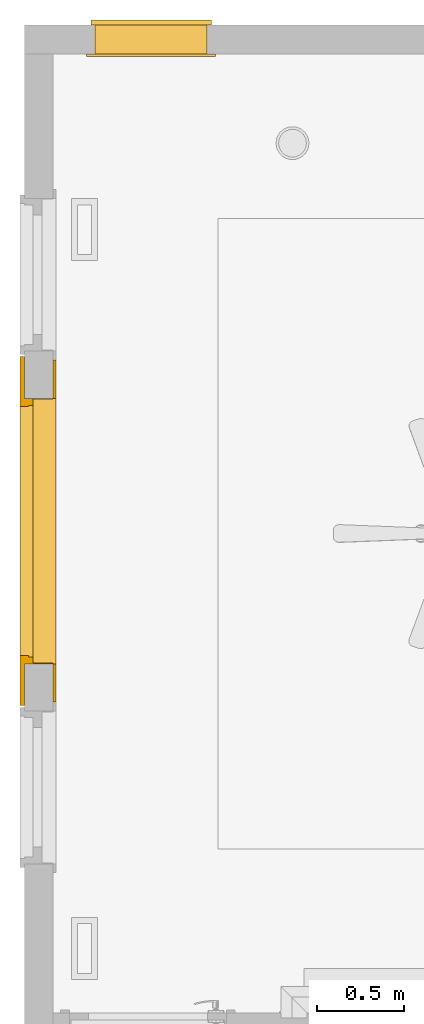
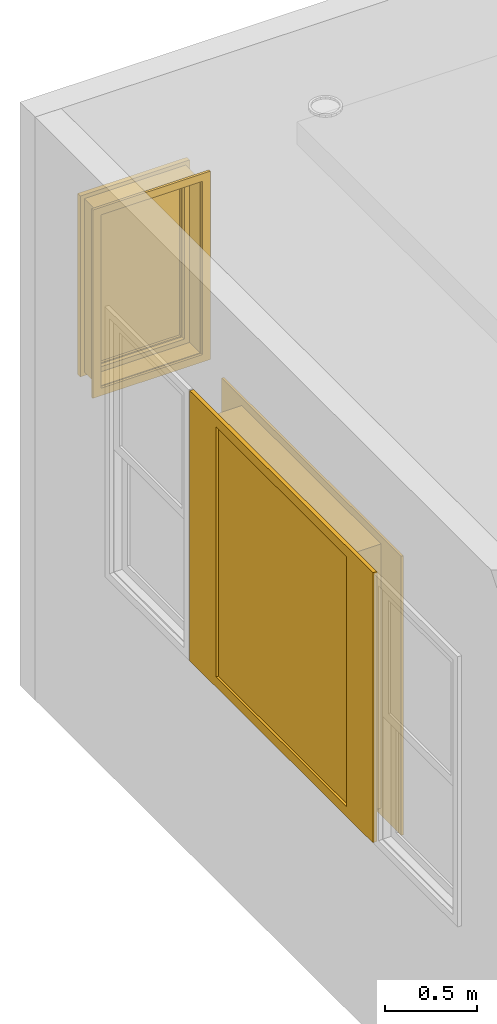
# One storey, part 36 of 77: 2 windows.
"""IFC2X3 building model written with IfcOpenShell, lengths in inches."""

import ifcopenshell
import ifcopenshell.guid

model = None  # the IFC model being written
_history = None  # IfcOwnerHistory: only IFC2X3 demands one
_inside = {}  # id of a spatial element -> (the spatial element, [elements in it])
_under = {}  # id of a project, library or spatial element -> (it, [spatial elements below it])
_declared = {}  # id of a project -> (the project, [libraries it declares])
_typed = {}  # id of a type object -> (the type object, [elements of that type])
_made_of = {}  # id of a material, layer set ... -> (it, [elements and type objects made of it])


def new_model(schema):
    """Start an empty IFC model of exactly this schema.

    Asked for "IFC4X3", IfcOpenShell would pick the latest addendum, in which some entities
    have other attributes; the version numbers below select the first issue.
    IFC2X3 requires an IfcOwnerHistory on every rooted entity: one is made here for all.
    """
    global model, _history
    if schema == "IFC4X3":
        model = ifcopenshell.file(schema_version=(4, 3, 0, 0))
    else:
        model = ifcopenshell.file(schema=schema)
    _inside.clear()
    _under.clear()
    _declared.clear()
    _typed.clear()
    _made_of.clear()
    _history = None
    if model.schema == "IFC2X3":
        org = make("IfcOrganization", Name="unknown")
        user = make(
            "IfcPersonAndOrganization",
            ThePerson=make("IfcPerson", FamilyName="unknown"),
            TheOrganization=org,
        )
        app = make(
            "IfcApplication",
            ApplicationDeveloper=org,
            Version="unknown",
            ApplicationFullName="unknown",
            ApplicationIdentifier="unknown",
        )
        _history = make(
            "IfcOwnerHistory",
            OwningUser=user,
            OwningApplication=app,
            ChangeAction="ADDED",
            CreationDate=0,
        )
    return model


def make(cls, **values):
    """One entity of the class cls with the attributes given. An attribute that is None is left unset."""
    return model.create_entity(
        cls, **{name: value for name, value in values.items() if value is not None}
    )


def entity(cls, *values):
    """Any entity or typed value of the class cls, its attributes in the order of the schema. None: left unset."""
    e = model.create_entity(cls)
    for i, value in enumerate(values):
        if value is not None:
            e[i] = value
    return e


def rooted(cls, **values):
    """An entity with a GlobalId (a new one), such as an element, a storey or a relation."""
    return make(cls, GlobalId=ifcopenshell.guid.new(), OwnerHistory=_history, **values)


def si_unit(unit_type, name, prefix=None):
    """IfcSIUnit, for example si_unit("LENGTHUNIT", "METRE", prefix="MILLI")."""
    return make("IfcSIUnit", UnitType=unit_type, Prefix=prefix, Name=name)


def converted_unit(unit_type, name, factor, base, dimensions=None, offset=None):
    """IfcConversionBasedUnit, such as the inch: factor (a typed value) times the base unit."""
    return make(
        "IfcConversionBasedUnit"
        if offset is None
        else "IfcConversionBasedUnitWithOffset",
        ConversionOffset=offset,
        Dimensions=None
        if dimensions is None
        else entity("IfcDimensionalExponents", *dimensions),
        UnitType=unit_type,
        Name=name,
        ConversionFactor=make(
            "IfcMeasureWithUnit", ValueComponent=factor, UnitComponent=base
        ),
    )


def derived_unit(unit_type, elements):
    """IfcDerivedUnit: a product of units, each with its exponent."""
    return make(
        "IfcDerivedUnit",
        Elements=[
            make("IfcDerivedUnitElement", Unit=unit, Exponent=power)
            for unit, power in elements
        ],
        UnitType=unit_type,
    )


def money_unit(currency):
    """IfcMonetaryUnit."""
    return make("IfcMonetaryUnit", Currency=currency)


def assignment(units):
    """IfcUnitAssignment: the units of a project."""
    return None if units is None else make("IfcUnitAssignment", Units=units)


def point(xyz):
    """IfcCartesianPoint."""
    return None if xyz is None else make("IfcCartesianPoint", Coordinates=xyz)


def direction(xyz):
    """IfcDirection."""
    return None if xyz is None else make("IfcDirection", DirectionRatios=xyz)


def frame(location, z_axis=None, x_axis=None):
    """IfcAxis2Placement3D, a coordinate frame: its origin and axes. An axis left out is left unset."""
    return make(
        "IfcAxis2Placement3D",
        Location=point(location),
        Axis=direction(z_axis),
        RefDirection=direction(x_axis),
    )


def origin_with_axes():
    """The frame at (0, 0, 0) with the z axis (0, 0, 1) and the x axis (1, 0, 0) written out."""
    return frame((0.0, 0.0, 0.0), z_axis=(0.0, 0.0, 1.0), x_axis=(1.0, 0.0, 0.0))


def place(relative_to, where):
    """IfcLocalPlacement: puts the frame where relative to a parent placement (None: the world)."""
    return make(
        "IfcLocalPlacement", PlacementRelTo=relative_to, RelativePlacement=where
    )


def context(
    kind, dimensions, precision=None, world=None, true_north=None, identifier=None
):
    """IfcGeometricRepresentationContext, for example the 3D "Model" context."""
    return make(
        "IfcGeometricRepresentationContext",
        ContextIdentifier=identifier,
        ContextType=kind,
        CoordinateSpaceDimension=dimensions,
        Precision=precision,
        WorldCoordinateSystem=world,
        TrueNorth=true_north,
    )


def subcontext(parent, identifier, kind, view, scale=None):
    """IfcGeometricRepresentationSubContext, for example "Body" below "Model"."""
    return make(
        "IfcGeometricRepresentationSubContext",
        ContextIdentifier=identifier,
        ContextType=kind,
        ParentContext=parent,
        TargetScale=scale,
        TargetView=view,
    )


def project(units=None, contexts=None):
    """IfcProject with its units and contexts."""
    return rooted(
        "IfcProject",
        Name="project",
        RepresentationContexts=contexts,
        UnitsInContext=assignment(units),
    )


def spatial(cls, under=None, at=None, **own):
    """A site, building, storey or space (cls), placed at a placement, below another one or the project."""
    s = rooted(cls, ObjectPlacement=at, **own)
    if under is not None:
        _under.setdefault(under.id(), (under, []))[1].append(s)
    return s


def faces_of(points, faces, orient=None, outer=None):
    """IfcFace entities. A face is a list of loops; a loop is a list of indices into points, from 0.

    orient and outer hold one flag for each loop. By default every Orientation is true, the
    first loop of a face is its IfcFaceOuterBound and the others are IfcFaceBound.
    """
    made = []
    for i, loops in enumerate(faces):
        bounds = []
        for j, loop in enumerate(loops):
            is_outer = j == 0 if outer is None else outer[i][j]
            bounds.append(
                make(
                    "IfcFaceOuterBound" if is_outer else "IfcFaceBound",
                    Bound=make("IfcPolyLoop", Polygon=[points[k] for k in loop]),
                    Orientation=True if orient is None else orient[i][j],
                )
            )
        made.append(make("IfcFace", Bounds=bounds))
    return made


def open_shell(faces, orient=None, outer=None):
    """The faces of one IfcOpenShell. surface_model builds it on its shared points."""
    return ("IfcOpenShell", faces, orient, outer)


def faceted_brep(points, faces, orient=None, outer=None, voids=None):
    """IfcFacetedBrep: a solid bounded by flat faces; with voids (closed shells), ...WithVoids."""
    shared = [point(p) for p in points]
    hull = make("IfcClosedShell", CfsFaces=faces_of(shared, faces, orient, outer))
    if voids is None:
        return make("IfcFacetedBrep", Outer=hull)
    return make(
        "IfcFacetedBrepWithVoids",
        Outer=hull,
        Voids=[
            make(cls, CfsFaces=faces_of(shared, fs, o, b)) for cls, fs, o, b in voids
        ],
    )


def surface_model(cls, points, shells):
    """IfcFaceBasedSurfaceModel or IfcShellBasedSurfaceModel (cls): surfaces that need not close."""
    shared = [point(p) for p in points]
    made = [make(c, CfsFaces=faces_of(shared, fs, o, b)) for c, fs, o, b in shells]
    if cls == "IfcFaceBasedSurfaceModel":
        return make(cls, FbsmFaces=made)
    return make(cls, SbsmBoundary=made)


def shape(context_of_items, identifier, shape_type, items):
    """IfcShapeRepresentation: the items that make up one representation, for example the "Body"."""
    return make(
        "IfcShapeRepresentation",
        ContextOfItems=context_of_items,
        RepresentationIdentifier=identifier,
        RepresentationType=shape_type,
        Items=items,
    )


def made_of(thing, what):
    """Note that an element or type object is made of a material, layer set ...; save() writes the relation."""
    if what is not None:
        _made_of.setdefault(what.id(), (what, []))[1].append(thing)
    return thing


def type_object(cls, material=None, **own):
    """A type object (cls), such as IfcWallType, which elements share."""
    return made_of(rooted(cls, **own), material)


def element(
    cls,
    number,
    at=None,
    inside=None,
    cuts=None,
    type_object=None,
    material=None,
    context=None,
    identifier="Body",
    shape_type=None,
    held_by="IfcProductDefinitionShape",
    body=None,
    shapes=None,
    **own,
):
    """One element of the class cls, such as IfcWall. Its Tag is "e" and its number.

    at: its placement. inside: the storey or other place that contains it. cuts: it is an
    opening in that element (IfcRelVoidsElement). A single representation is given by context,
    identifier, shape_type and body (its items); several are given by shapes. held_by: the class
    of the entity that holds the representations. save() writes the other relations.
    """
    e = rooted(cls, Tag="e%d" % number, ObjectPlacement=at, **own)
    if body is not None:
        shapes = [shape(context, identifier, shape_type, body)]
    if shapes is not None:
        e.Representation = make(held_by, Representations=shapes)
    if inside is not None:
        _inside.setdefault(inside.id(), (inside, []))[1].append(e)
    if cuts is not None:
        rooted(
            "IfcRelVoidsElement", RelatingBuildingElement=cuts, RelatedOpeningElement=e
        )
    if type_object is not None:
        _typed.setdefault(type_object.id(), (type_object, []))[1].append(e)
    return made_of(e, material)


def aggregate(whole, parts):
    """IfcRelAggregates: a whole, such as a stair, and the parts it consists of."""
    return rooted("IfcRelAggregates", RelatingObject=whole, RelatedObjects=parts)


def save(model, path):
    """Write the relations noted so far, then the file.

    IfcRelAggregates (storeys below a building ...), IfcRelContainedInSpatialStructure (elements
    in a storey), IfcRelDefinesByType, IfcRelAssociatesMaterial and IfcRelDeclares: one each for
    every whole, place, type object, material and project.
    """
    for whole, parts in _under.values():
        aggregate(whole, parts)
    for where, things in _inside.values():
        rooted(
            "IfcRelContainedInSpatialStructure",
            RelatedElements=things,
            RelatingStructure=where,
        )
    for kind, things in _typed.values():
        rooted("IfcRelDefinesByType", RelatedObjects=things, RelatingType=kind)
    for what, things in _made_of.values():
        rooted("IfcRelAssociatesMaterial", RelatedObjects=things, RelatingMaterial=what)
    for by, libraries in _declared.values():
        rooted("IfcRelDeclares", RelatingContext=by, RelatedDefinitions=libraries)
    model.write(path)


model = new_model("IFC2X3")

# Units and contexts
model_context = context("Model", 3, precision=0.000393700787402, world=origin_with_axes(), true_north=direction((0.0, 1.0)))
body_context = subcontext(model_context, "Body", "Model", "MODEL_VIEW")
ifc_project = project(units=[converted_unit("LENGTHUNIT", "INCH", entity("IfcPositiveLengthMeasure", 0.0254), si_unit("LENGTHUNIT", "METRE"), dimensions=[1, 0, 0, 0, 0, 0, 0]), converted_unit("AREAUNIT", "SQUARE_FOOT", entity("IfcPositiveLengthMeasure", 0.09290304), si_unit("AREAUNIT", "SQUARE_METRE"), dimensions=[2, 0, 0, 0, 0, 0, 0]), si_unit("PLANEANGLEUNIT", "RADIAN"), si_unit("SOLIDANGLEUNIT", "STERADIAN"), money_unit("USD"), converted_unit("TIMEUNIT", "Year", entity("IfcTimeMeasure", 31556926.0), si_unit("TIMEUNIT", "SECOND"), dimensions=[0, 0, 1, 0, 0, 0, 0]), si_unit("MASSUNIT", "GRAM", prefix="KILO"), si_unit("THERMODYNAMICTEMPERATUREUNIT", "DEGREE_CELSIUS"), si_unit("LUMINOUSINTENSITYUNIT", "LUMEN"), si_unit("ENERGYUNIT", "JOULE", prefix="MEGA"), derived_unit("THERMALCONDUCTANCEUNIT", [(si_unit("POWERUNIT", "WATT"), 1), (si_unit("LENGTHUNIT", "METRE"), -1), (si_unit("THERMODYNAMICTEMPERATUREUNIT", "KELVIN"), -1)]), derived_unit("SPECIFICHEATCAPACITYUNIT", [(si_unit("ENERGYUNIT", "JOULE"), 1), (si_unit("MASSUNIT", "GRAM", prefix="KILO"), -1), (si_unit("THERMODYNAMICTEMPERATUREUNIT", "KELVIN"), -1)]), derived_unit("MASSDENSITYUNIT", [(si_unit("MASSUNIT", "GRAM", prefix="KILO"), 1), (si_unit("VOLUMEUNIT", "CUBIC_METRE"), -1)])], contexts=[model_context])

# Site, building, storey
site_placement = place(None, origin_with_axes())
site = spatial("IfcSite", under=ifc_project, at=site_placement, Name="Site", CompositionType="ELEMENT")
building_placement = place(site_placement, origin_with_axes())
building = spatial("IfcBuilding", under=site, at=building_placement, Name="Building", CompositionType="ELEMENT")
storey_placement = place(building_placement, frame((0.0, 0.0, 127.952755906), z_axis=(0.0, 0.0, 1.0), x_axis=(1.0, 0.0, 0.0)))
storey = spatial("IfcBuildingStorey", under=building, at=storey_placement, Name="Second Floor", CompositionType="ELEMENT", Elevation=127.953)

# Windows
window_style_1 = type_object("IfcWindowStyle", Name="Window 25", ConstructionType="NOTDEFINED", OperationType="SINGLE_PANEL", ParameterTakesPrecedence=False, Sizeable=False)
window_1_placement = place(storey_placement, frame((236.09924534, 607.989865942, 49.6062992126), z_axis=(0.0, 0.0, 1.0), x_axis=(1.0, 0.0, 0.0)))
element("IfcWindow", 1, at=window_1_placement, inside=storey, type_object=window_style_1, Name="W-26", OverallHeight=45.4724, OverallWidth=25.1969, context=body_context, shape_type="SurfaceModel", body=[
    faceted_brep([(25.1968503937, 4.53149606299, 0.0), (25.1968503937, 0.0, 0.0), (0.0, 0.0, 0.0), (0.0, 4.53149606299, 0.0), (25.1968503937, 4.53149606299, 45.4724409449), (25.1968503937, 0.0, 45.4724409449), (0.0, 0.0, 45.4724409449), (25.0, 0.0, 0.196850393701), (0.196850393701, 0.0, 0.196850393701), (0.196850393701, 0.0, 45.2755905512), (25.0, 0.0, 45.2755905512), (0.0, 4.53149606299, 45.4724409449), (25.0, 4.53149606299, 0.196850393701), (25.0, 4.53149606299, 45.2755905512), (0.196850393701, 4.53149606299, 45.2755905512), (0.196850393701, 4.53149606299, 0.196850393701)], [[[0, 1, 2, 3]], [[4, 5, 1, 0]], [[1, 5, 6, 2], [7, 8, 9, 10]], [[3, 2, 6, 11]], [[0, 3, 11, 4], [12, 13, 14, 15]], [[11, 6, 5, 4]], [[15, 8, 7, 12]], [[14, 9, 8, 15]], [[13, 10, 9, 14]], [[12, 7, 10, 13]]]),
    faceted_brep([(27.1653543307, -0.590551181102, -1.96850393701), (25.1968503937, -0.590551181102, 0.0), (25.1968503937, 0.0, 0.0), (27.1653543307, 0.0, -1.96850393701), (27.1653543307, -0.590551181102, 47.4409448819), (25.1968503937, -0.590551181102, 45.4724409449), (25.1968503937, 0.0, 45.4724409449), (27.1653543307, 0.0, 47.4409448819)], [[[0, 1, 2, 3]], [[0, 4, 5, 1]], [[1, 5, 6, 2]], [[3, 2, 6, 7]], [[4, 0, 3, 7]], [[5, 4, 7, 6]]]),
    faceted_brep([(-1.96850393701, -0.590551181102, 47.4409448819), (0.0, -0.590551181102, 45.4724409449), (0.0, 0.0, 45.4724409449), (-1.96850393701, 0.0, 47.4409448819), (-1.96850393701, -0.590551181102, -1.96850393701), (0.0, -0.590551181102, 0.0), (0.0, 0.0, 0.0), (-1.96850393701, 0.0, -1.96850393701)], [[[0, 1, 2, 3]], [[0, 4, 5, 1]], [[1, 5, 6, 2]], [[3, 2, 6, 7]], [[4, 0, 3, 7]], [[5, 4, 7, 6]]]),
    faceted_brep([(-1.96850393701, -0.590551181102, -1.96850393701), (0.0, -0.590551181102, 0.0), (0.0, 0.0, 0.0), (-1.96850393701, 0.0, -1.96850393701), (27.1653543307, -0.590551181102, -1.96850393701), (25.1968503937, -0.590551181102, 0.0), (25.1968503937, 0.0, 0.0), (27.1653543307, 0.0, -1.96850393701)], [[[0, 1, 2, 3]], [[0, 4, 5, 1]], [[1, 5, 6, 2]], [[3, 2, 6, 7]], [[4, 0, 3, 7]], [[5, 4, 7, 6]]]),
    faceted_brep([(27.1653543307, -0.590551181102, 47.4409448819), (25.1968503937, -0.590551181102, 45.4724409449), (25.1968503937, 0.0, 45.4724409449), (27.1653543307, 0.0, 47.4409448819), (-1.96850393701, -0.590551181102, 47.4409448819), (0.0, -0.590551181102, 45.4724409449), (0.0, 0.0, 45.4724409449), (-1.96850393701, 0.0, 47.4409448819)], [[[0, 1, 2, 3]], [[0, 4, 5, 1]], [[1, 5, 6, 2]], [[3, 2, 6, 7]], [[4, 0, 3, 7]], [[5, 4, 7, 6]]]),
    faceted_brep([(26.1811023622, 7.6811023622, -0.984251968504), (26.1811023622, 6.5, -0.984251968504), (24.2125984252, 6.5, 0.984251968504), (24.2125984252, 7.6811023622, 0.984251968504), (26.1811023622, 7.6811023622, 46.4566929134), (26.1811023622, 6.5, 46.4566929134), (24.2125984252, 6.5, 44.4881889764), (24.2125984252, 7.6811023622, 44.4881889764)], [[[0, 1, 2, 3]], [[4, 5, 1, 0]], [[1, 5, 6, 2]], [[3, 2, 6, 7]], [[0, 3, 7, 4]], [[7, 6, 5, 4]]]),
    faceted_brep([(-0.984251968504, 7.6811023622, 46.4566929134), (-0.984251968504, 6.5, 46.4566929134), (0.984251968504, 6.5, 44.4881889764), (0.984251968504, 7.6811023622, 44.4881889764), (-0.984251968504, 7.6811023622, -0.984251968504), (-0.984251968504, 6.5, -0.984251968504), (0.984251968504, 6.5, 0.984251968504), (0.984251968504, 7.6811023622, 0.984251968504)], [[[0, 1, 2, 3]], [[4, 5, 1, 0]], [[1, 5, 6, 2]], [[3, 2, 6, 7]], [[0, 3, 7, 4]], [[7, 6, 5, 4]]]),
    faceted_brep([(-0.984251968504, 7.6811023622, -0.984251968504), (-0.984251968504, 6.5, -0.984251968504), (0.984251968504, 6.5, 0.984251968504), (0.984251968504, 7.6811023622, 0.984251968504), (26.1811023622, 7.6811023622, -0.984251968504), (26.1811023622, 6.5, -0.984251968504), (24.2125984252, 6.5, 0.984251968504), (24.2125984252, 7.6811023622, 0.984251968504)], [[[0, 1, 2, 3]], [[4, 5, 1, 0]], [[1, 5, 6, 2]], [[3, 2, 6, 7]], [[0, 3, 7, 4]], [[7, 6, 5, 4]]]),
    faceted_brep([(26.1811023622, 7.6811023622, 46.4566929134), (26.1811023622, 6.5, 46.4566929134), (24.2125984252, 6.5, 44.4881889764), (24.2125984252, 7.6811023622, 44.4881889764), (-0.984251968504, 7.6811023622, 46.4566929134), (-0.984251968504, 6.5, 46.4566929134), (0.984251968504, 6.5, 44.4881889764), (0.984251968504, 7.6811023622, 44.4881889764)], [[[0, 1, 2, 3]], [[4, 5, 1, 0]], [[1, 5, 6, 2]], [[3, 2, 6, 7]], [[0, 3, 7, 4]], [[7, 6, 5, 4]]]),
    faceted_brep([(24.6850393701, 6.5, 43.9763779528), (24.6850393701, 5.5157480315, 43.9763779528), (23.7007874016, 5.5157480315, 43.9763779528), (23.7007874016, 4.53149606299, 43.9763779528), (25.1968503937, 4.53149606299, 43.9763779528), (25.1968503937, 6.5, 43.9763779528), (24.6850393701, 6.5, 1.49606299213), (24.6850393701, 5.5157480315, 1.49606299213), (23.7007874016, 5.5157480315, 1.49606299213), (23.7007874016, 4.53149606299, 1.49606299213), (25.1968503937, 4.53149606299, 1.49606299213), (25.1968503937, 6.5, 1.49606299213)], [[[0, 1, 2, 3, 4, 5]], [[1, 0, 6, 7]], [[8, 2, 1, 7]], [[2, 8, 9, 3]], [[4, 3, 9, 10]], [[5, 4, 10, 11]], [[6, 0, 5, 11]], [[7, 6, 11, 10, 9, 8]]]),
    faceted_brep([(1.49606299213, 5.5157480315, 43.9763779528), (0.511811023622, 5.5157480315, 43.9763779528), (0.511811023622, 6.5, 43.9763779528), (0.0, 6.5, 43.9763779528), (0.0, 4.53149606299, 43.9763779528), (1.49606299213, 4.53149606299, 43.9763779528), (1.49606299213, 5.5157480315, 1.49606299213), (0.511811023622, 5.5157480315, 1.49606299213), (0.511811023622, 6.5, 1.49606299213), (0.0, 6.5, 1.49606299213), (0.0, 4.53149606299, 1.49606299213), (1.49606299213, 4.53149606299, 1.49606299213)], [[[0, 1, 2, 3, 4, 5]], [[1, 0, 6, 7]], [[8, 2, 1, 7]], [[2, 8, 9, 3]], [[9, 10, 4, 3]], [[10, 11, 5, 4]], [[6, 0, 5, 11]], [[7, 6, 11, 10, 9, 8]]]),
    faceted_brep([(1.49606299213, 5.5157480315, 1.49606299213), (0.511811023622, 5.5157480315, 1.49606299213), (0.511811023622, 6.5, 1.49606299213), (0.0, 6.5, 1.49606299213), (0.0, 4.53149606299, 1.49606299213), (1.49606299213, 4.53149606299, 1.49606299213), (23.7007874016, 5.5157480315, 1.49606299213), (24.6850393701, 5.5157480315, 1.49606299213), (24.6850393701, 5.5157480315, 0.511811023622), (0.511811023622, 5.5157480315, 0.511811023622), (0.511811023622, 6.5, 0.511811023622), (24.6850393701, 6.5, 0.511811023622), (24.6850393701, 6.5, 1.49606299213), (25.1968503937, 6.5, 1.49606299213), (25.1968503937, 6.5, 0.0), (0.0, 6.5, 0.0), (0.0, 4.53149606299, 0.0), (25.1968503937, 4.53149606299, 1.49606299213), (23.7007874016, 4.53149606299, 1.49606299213), (25.1968503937, 4.53149606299, 0.0)], [[[0, 1, 2, 3, 4, 5]], [[1, 0, 6, 7, 8, 9]], [[10, 2, 1, 9]], [[11, 12, 13, 14, 15, 3, 2, 10]], [[15, 16, 4, 3]], [[17, 18, 5, 4, 16, 19]], [[6, 0, 5, 18]], [[7, 6, 18, 17, 13, 12]], [[7, 12, 11, 8]], [[11, 10, 9, 8]], [[13, 17, 19, 14]], [[14, 19, 16, 15]]]),
    faceted_brep([(24.6850393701, 6.5, 43.9763779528), (24.6850393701, 6.5, 44.9606299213), (0.511811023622, 6.5, 44.9606299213), (0.511811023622, 6.5, 43.9763779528), (0.0, 6.5, 43.9763779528), (0.0, 6.5, 45.4724409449), (25.1968503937, 6.5, 45.4724409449), (25.1968503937, 6.5, 43.9763779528), (24.6850393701, 5.5157480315, 43.9763779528), (24.6850393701, 5.5157480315, 44.9606299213), (0.511811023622, 5.5157480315, 44.9606299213), (0.511811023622, 5.5157480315, 43.9763779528), (1.49606299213, 5.5157480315, 43.9763779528), (1.49606299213, 4.53149606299, 43.9763779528), (0.0, 4.53149606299, 43.9763779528), (0.0, 4.53149606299, 45.4724409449), (25.1968503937, 4.53149606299, 45.4724409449), (25.1968503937, 4.53149606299, 43.9763779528), (23.7007874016, 4.53149606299, 43.9763779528), (23.7007874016, 5.5157480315, 43.9763779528)], [[[0, 1, 2, 3, 4, 5, 6, 7]], [[1, 0, 8, 9]], [[2, 1, 9, 10]], [[3, 2, 10, 11]], [[11, 12, 13, 14, 4, 3]], [[4, 14, 15, 5]], [[5, 15, 16, 6]], [[6, 16, 17, 7]], [[8, 0, 7, 17, 18, 19]], [[12, 11, 10, 9, 8, 19]], [[12, 19, 18, 13]], [[14, 13, 18, 17, 16, 15]]]),
    faceted_brep([(23.4251968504, 5.5157480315, 43.7007874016), (24.6850393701, 5.5157480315, 43.7007874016), (24.6850393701, 7.4842519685, 43.7007874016), (23.4251968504, 7.4842519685, 43.7007874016), (23.4251968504, 5.5157480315, 1.77165354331), (24.6850393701, 5.5157480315, 1.77165354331), (24.6850393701, 7.4842519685, 1.77165354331), (23.4251968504, 7.4842519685, 1.77165354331)], [[[0, 1, 2, 3]], [[0, 4, 5, 1]], [[1, 5, 6, 2]], [[3, 2, 6, 7]], [[4, 0, 3, 7]], [[5, 4, 7, 6]]]),
    faceted_brep([(1.77165354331, 5.5157480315, 1.77165354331), (0.511811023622, 5.5157480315, 1.77165354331), (0.511811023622, 7.4842519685, 1.77165354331), (1.77165354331, 7.4842519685, 1.77165354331), (1.77165354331, 5.5157480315, 43.7007874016), (0.511811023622, 5.5157480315, 43.7007874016), (0.511811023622, 7.4842519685, 43.7007874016), (1.77165354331, 7.4842519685, 43.7007874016)], [[[0, 1, 2, 3]], [[0, 4, 5, 1]], [[1, 5, 6, 2]], [[3, 2, 6, 7]], [[4, 0, 3, 7]], [[5, 4, 7, 6]]]),
    faceted_brep([(0.511811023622, 5.5157480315, 0.511811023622), (0.511811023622, 5.5157480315, 1.77165354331), (0.511811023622, 7.4842519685, 1.77165354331), (0.511811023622, 7.4842519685, 0.511811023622), (24.6850393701, 5.5157480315, 0.511811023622), (24.6850393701, 5.5157480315, 1.77165354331), (23.4251968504, 5.5157480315, 1.77165354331), (1.77165354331, 5.5157480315, 1.77165354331), (1.77165354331, 7.4842519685, 1.77165354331), (23.4251968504, 7.4842519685, 1.77165354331), (24.6850393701, 7.4842519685, 1.77165354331), (24.6850393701, 7.4842519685, 0.511811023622)], [[[0, 1, 2, 3]], [[0, 4, 5, 6, 7, 1]], [[1, 7, 8, 2]], [[3, 2, 8, 9, 10, 11]], [[4, 0, 3, 11]], [[5, 4, 11, 10]], [[6, 5, 10, 9]], [[7, 6, 9, 8]]]),
    faceted_brep([(24.6850393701, 5.5157480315, 44.9606299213), (24.6850393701, 5.5157480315, 43.7007874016), (24.6850393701, 7.4842519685, 43.7007874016), (24.6850393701, 7.4842519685, 44.9606299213), (0.511811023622, 5.5157480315, 44.9606299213), (0.511811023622, 5.5157480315, 43.7007874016), (1.77165354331, 5.5157480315, 43.7007874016), (23.4251968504, 5.5157480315, 43.7007874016), (23.4251968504, 7.4842519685, 43.7007874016), (1.77165354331, 7.4842519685, 43.7007874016), (0.511811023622, 7.4842519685, 43.7007874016), (0.511811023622, 7.4842519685, 44.9606299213)], [[[0, 1, 2, 3]], [[0, 4, 5, 6, 7, 1]], [[1, 7, 8, 2]], [[3, 2, 8, 9, 10, 11]], [[4, 0, 3, 11]], [[5, 4, 11, 10]], [[6, 5, 10, 9]], [[7, 6, 9, 8]]]),
    surface_model("IfcShellBasedSurfaceModel", [(23.4251968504, 6.1062992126, 1.77165354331), (23.4251968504, 6.1062992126, 43.7007874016), (1.77165354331, 6.1062992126, 43.7007874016), (1.77165354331, 6.1062992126, 1.77165354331)], [open_shell([[[0, 1, 2, 3]]])]),
    surface_model("IfcShellBasedSurfaceModel", [(23.4251968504, 6.8937007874, 1.77165354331), (1.77165354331, 6.8937007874, 1.77165354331), (1.77165354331, 6.8937007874, 43.7007874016), (23.4251968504, 6.8937007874, 43.7007874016)], [open_shell([[[0, 1, 2, 3]]])]),
])
window_style_2 = type_object("IfcWindowStyle", Name="Window 25", ConstructionType="NOTDEFINED", OperationType="SINGLE_PANEL", ParameterTakesPrecedence=False, Sizeable=False)
window_2_placement = place(storey_placement, frame((226.637942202, 470.568754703, 25.7874015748), z_axis=(0.0, 0.0, 1.0), x_axis=(0.0, 1.0, 0.0)))
element("IfcWindow", 2, at=window_2_placement, inside=storey, type_object=window_style_2, Name="W-31", OverallHeight=69.2913, OverallWidth=59.8425, context=body_context, shape_type="SurfaceModel", body=[
    faceted_brep([(59.842519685, 4.53149606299, 0.0), (59.842519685, 0.0, 0.0), (0.0, 0.0, 0.0), (0.0, 4.53149606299, 0.0), (59.842519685, 4.53149606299, 69.2913385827), (59.842519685, 0.0, 69.2913385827), (0.0, 0.0, 69.2913385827), (59.6456692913, 0.0, 0.196850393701), (0.196850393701, 0.0, 0.196850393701), (0.196850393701, 0.0, 69.094488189), (59.6456692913, 0.0, 69.094488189), (0.0, 4.53149606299, 69.2913385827), (59.6456692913, 4.53149606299, 0.196850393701), (59.6456692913, 4.53149606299, 69.094488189), (0.196850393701, 4.53149606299, 69.094488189), (0.196850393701, 4.53149606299, 0.196850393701)], [[[0, 1, 2, 3]], [[4, 5, 1, 0]], [[1, 5, 6, 2], [7, 8, 9, 10]], [[3, 2, 6, 11]], [[0, 3, 11, 4], [12, 13, 14, 15]], [[11, 6, 5, 4]], [[15, 8, 7, 12]], [[14, 9, 8, 15]], [[13, 10, 9, 14]], [[12, 7, 10, 13]]]),
    faceted_brep([(68.5039370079, -0.590551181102, -1.96850393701), (59.842519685, -0.590551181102, 0.0), (59.842519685, 0.0, 0.0), (68.5039370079, 0.0, -1.96850393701), (68.5039370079, -0.590551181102, 71.2598425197), (59.842519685, -0.590551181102, 69.2913385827), (59.842519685, 0.0, 69.2913385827), (68.5039370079, 0.0, 71.2598425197)], [[[0, 1, 2, 3]], [[0, 4, 5, 1]], [[1, 5, 6, 2]], [[3, 2, 6, 7]], [[4, 0, 3, 7]], [[5, 4, 7, 6]]]),
    faceted_brep([(-8.66141732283, -0.590551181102, 71.2598425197), (0.0, -0.590551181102, 69.2913385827), (0.0, 0.0, 69.2913385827), (-8.66141732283, 0.0, 71.2598425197), (-8.66141732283, -0.590551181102, -1.96850393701), (0.0, -0.590551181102, 0.0), (0.0, 0.0, 0.0), (-8.66141732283, 0.0, -1.96850393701)], [[[0, 1, 2, 3]], [[0, 4, 5, 1]], [[1, 5, 6, 2]], [[3, 2, 6, 7]], [[4, 0, 3, 7]], [[5, 4, 7, 6]]]),
    faceted_brep([(-8.66141732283, -0.590551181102, -1.96850393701), (0.0, -0.590551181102, 0.0), (0.0, 0.0, 0.0), (-8.66141732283, 0.0, -1.96850393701), (68.5039370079, -0.590551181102, -1.96850393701), (59.842519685, -0.590551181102, 0.0), (59.842519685, 0.0, 0.0), (68.5039370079, 0.0, -1.96850393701)], [[[0, 1, 2, 3]], [[0, 4, 5, 1]], [[1, 5, 6, 2]], [[3, 2, 6, 7]], [[4, 0, 3, 7]], [[5, 4, 7, 6]]]),
    faceted_brep([(68.5039370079, -0.590551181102, 71.2598425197), (59.842519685, -0.590551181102, 69.2913385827), (59.842519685, 0.0, 69.2913385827), (68.5039370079, 0.0, 71.2598425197), (-8.66141732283, -0.590551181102, 71.2598425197), (0.0, -0.590551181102, 69.2913385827), (0.0, 0.0, 69.2913385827), (-8.66141732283, 0.0, 71.2598425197)], [[[0, 1, 2, 3]], [[0, 4, 5, 1]], [[1, 5, 6, 2]], [[3, 2, 6, 7]], [[4, 0, 3, 7]], [[5, 4, 7, 6]]]),
    faceted_brep([(69.2913385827, 7.4842519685, -0.787401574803), (69.2913385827, 6.5, -0.787401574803), (58.6614173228, 6.5, 1.1811023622), (58.6614173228, 7.4842519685, 1.1811023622), (69.2913385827, 7.4842519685, 70.0787401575), (69.2913385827, 6.5, 70.0787401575), (58.6614173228, 6.5, 68.1102362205), (58.6614173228, 7.4842519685, 68.1102362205)], [[[0, 1, 2, 3]], [[4, 5, 1, 0]], [[1, 5, 6, 2]], [[3, 2, 6, 7]], [[0, 3, 7, 4]], [[7, 6, 5, 4]]]),
    faceted_brep([(-9.44881889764, 7.4842519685, 70.0787401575), (-9.44881889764, 6.5, 70.0787401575), (1.1811023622, 6.5, 68.1102362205), (1.1811023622, 7.4842519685, 68.1102362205), (-9.44881889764, 7.4842519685, -0.787401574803), (-9.44881889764, 6.5, -0.787401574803), (1.1811023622, 6.5, 1.1811023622), (1.1811023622, 7.4842519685, 1.1811023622)], [[[0, 1, 2, 3]], [[4, 5, 1, 0]], [[1, 5, 6, 2]], [[3, 2, 6, 7]], [[0, 3, 7, 4]], [[7, 6, 5, 4]]]),
    faceted_brep([(-9.44881889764, 7.4842519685, -0.787401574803), (-9.44881889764, 6.5, -0.787401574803), (1.1811023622, 6.5, 1.1811023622), (1.1811023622, 7.4842519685, 1.1811023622), (69.2913385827, 7.4842519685, -0.787401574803), (69.2913385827, 6.5, -0.787401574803), (58.6614173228, 6.5, 1.1811023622), (58.6614173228, 7.4842519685, 1.1811023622)], [[[0, 1, 2, 3]], [[4, 5, 1, 0]], [[1, 5, 6, 2]], [[3, 2, 6, 7]], [[0, 3, 7, 4]], [[7, 6, 5, 4]]]),
    faceted_brep([(69.2913385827, 7.4842519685, 70.0787401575), (69.2913385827, 6.5, 70.0787401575), (58.6614173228, 6.5, 68.1102362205), (58.6614173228, 7.4842519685, 68.1102362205), (-9.44881889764, 7.4842519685, 70.0787401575), (-9.44881889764, 6.5, 70.0787401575), (1.1811023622, 6.5, 68.1102362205), (1.1811023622, 7.4842519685, 68.1102362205)], [[[0, 1, 2, 3]], [[4, 5, 1, 0]], [[1, 5, 6, 2]], [[3, 2, 6, 7]], [[0, 3, 7, 4]], [[7, 6, 5, 4]]]),
    faceted_brep([(59.2519685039, 6.5, 67.7165354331), (59.2519685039, 5.5157480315, 67.7165354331), (58.2677165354, 5.5157480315, 67.7165354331), (58.2677165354, 4.53149606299, 67.7165354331), (59.842519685, 4.53149606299, 67.7165354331), (59.842519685, 6.5, 67.7165354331), (59.2519685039, 6.5, 1.57480314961), (59.2519685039, 5.5157480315, 1.57480314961), (58.2677165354, 5.5157480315, 1.57480314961), (58.2677165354, 4.53149606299, 1.57480314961), (59.842519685, 4.53149606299, 1.57480314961), (59.842519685, 6.5, 1.57480314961)], [[[0, 1, 2, 3, 4, 5]], [[1, 0, 6, 7]], [[8, 2, 1, 7]], [[2, 8, 9, 3]], [[4, 3, 9, 10]], [[5, 4, 10, 11]], [[6, 0, 5, 11]], [[7, 6, 11, 10, 9, 8]]]),
    faceted_brep([(1.57480314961, 5.5157480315, 67.7165354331), (0.590551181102, 5.5157480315, 67.7165354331), (0.590551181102, 6.5, 67.7165354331), (0.0, 6.5, 67.7165354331), (0.0, 4.53149606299, 67.7165354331), (1.57480314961, 4.53149606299, 67.7165354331), (1.57480314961, 5.5157480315, 1.57480314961), (0.590551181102, 5.5157480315, 1.57480314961), (0.590551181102, 6.5, 1.57480314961), (0.0, 6.5, 1.57480314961), (0.0, 4.53149606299, 1.57480314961), (1.57480314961, 4.53149606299, 1.57480314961)], [[[0, 1, 2, 3, 4, 5]], [[1, 0, 6, 7]], [[8, 2, 1, 7]], [[2, 8, 9, 3]], [[9, 10, 4, 3]], [[10, 11, 5, 4]], [[6, 0, 5, 11]], [[7, 6, 11, 10, 9, 8]]]),
    faceted_brep([(1.57480314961, 5.5157480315, 1.57480314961), (0.590551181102, 5.5157480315, 1.57480314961), (0.590551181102, 6.5, 1.57480314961), (0.0, 6.5, 1.57480314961), (0.0, 4.53149606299, 1.57480314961), (1.57480314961, 4.53149606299, 1.57480314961), (58.2677165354, 5.5157480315, 1.57480314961), (59.2519685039, 5.5157480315, 1.57480314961), (59.2519685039, 5.5157480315, 0.590551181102), (0.590551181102, 5.5157480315, 0.590551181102), (0.590551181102, 6.5, 0.590551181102), (59.2519685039, 6.5, 0.590551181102), (59.2519685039, 6.5, 1.57480314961), (59.842519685, 6.5, 1.57480314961), (59.842519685, 6.5, 0.0), (0.0, 6.5, 0.0), (0.0, 4.53149606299, 0.0), (59.842519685, 4.53149606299, 1.57480314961), (58.2677165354, 4.53149606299, 1.57480314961), (59.842519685, 4.53149606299, 0.0)], [[[0, 1, 2, 3, 4, 5]], [[1, 0, 6, 7, 8, 9]], [[10, 2, 1, 9]], [[11, 12, 13, 14, 15, 3, 2, 10]], [[15, 16, 4, 3]], [[17, 18, 5, 4, 16, 19]], [[6, 0, 5, 18]], [[7, 6, 18, 17, 13, 12]], [[7, 12, 11, 8]], [[11, 10, 9, 8]], [[13, 17, 19, 14]], [[14, 19, 16, 15]]]),
    faceted_brep([(59.2519685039, 6.5, 67.7165354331), (59.2519685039, 6.5, 68.7007874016), (0.590551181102, 6.5, 68.7007874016), (0.590551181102, 6.5, 67.7165354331), (0.0, 6.5, 67.7165354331), (0.0, 6.5, 69.2913385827), (59.842519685, 6.5, 69.2913385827), (59.842519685, 6.5, 67.7165354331), (59.2519685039, 5.5157480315, 67.7165354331), (59.2519685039, 5.5157480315, 68.7007874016), (0.590551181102, 5.5157480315, 68.7007874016), (0.590551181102, 5.5157480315, 67.7165354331), (1.57480314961, 5.5157480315, 67.7165354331), (1.57480314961, 4.53149606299, 67.7165354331), (0.0, 4.53149606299, 67.7165354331), (0.0, 4.53149606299, 69.2913385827), (59.842519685, 4.53149606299, 69.2913385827), (59.842519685, 4.53149606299, 67.7165354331), (58.2677165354, 4.53149606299, 67.7165354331), (58.2677165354, 5.5157480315, 67.7165354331)], [[[0, 1, 2, 3, 4, 5, 6, 7]], [[1, 0, 8, 9]], [[2, 1, 9, 10]], [[3, 2, 10, 11]], [[11, 12, 13, 14, 4, 3]], [[4, 14, 15, 5]], [[5, 15, 16, 6]], [[6, 16, 17, 7]], [[8, 0, 7, 17, 18, 19]], [[12, 11, 10, 9, 8, 19]], [[12, 19, 18, 13]], [[14, 13, 18, 17, 16, 15]]]),
    faceted_brep([(57.9921259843, 5.5157480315, 67.4409448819), (59.2519685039, 5.5157480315, 67.4409448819), (59.2519685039, 7.4842519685, 67.4409448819), (57.9921259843, 7.4842519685, 67.4409448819), (57.9921259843, 5.5157480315, 1.85039370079), (59.2519685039, 5.5157480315, 1.85039370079), (59.2519685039, 7.4842519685, 1.85039370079), (57.9921259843, 7.4842519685, 1.85039370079)], [[[0, 1, 2, 3]], [[0, 4, 5, 1]], [[1, 5, 6, 2]], [[3, 2, 6, 7]], [[4, 0, 3, 7]], [[5, 4, 7, 6]]]),
    faceted_brep([(1.85039370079, 5.5157480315, 1.85039370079), (0.590551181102, 5.5157480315, 1.85039370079), (0.590551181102, 7.4842519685, 1.85039370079), (1.85039370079, 7.4842519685, 1.85039370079), (1.85039370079, 5.5157480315, 67.4409448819), (0.590551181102, 5.5157480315, 67.4409448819), (0.590551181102, 7.4842519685, 67.4409448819), (1.85039370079, 7.4842519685, 67.4409448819)], [[[0, 1, 2, 3]], [[0, 4, 5, 1]], [[1, 5, 6, 2]], [[3, 2, 6, 7]], [[4, 0, 3, 7]], [[5, 4, 7, 6]]]),
    faceted_brep([(0.590551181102, 5.5157480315, 0.590551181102), (0.590551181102, 5.5157480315, 1.85039370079), (0.590551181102, 7.4842519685, 1.85039370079), (0.590551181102, 7.4842519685, 0.590551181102), (59.2519685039, 5.5157480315, 0.590551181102), (59.2519685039, 5.5157480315, 1.85039370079), (57.9921259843, 5.5157480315, 1.85039370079), (1.85039370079, 5.5157480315, 1.85039370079), (1.85039370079, 7.4842519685, 1.85039370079), (57.9921259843, 7.4842519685, 1.85039370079), (59.2519685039, 7.4842519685, 1.85039370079), (59.2519685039, 7.4842519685, 0.590551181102)], [[[0, 1, 2, 3]], [[0, 4, 5, 6, 7, 1]], [[1, 7, 8, 2]], [[3, 2, 8, 9, 10, 11]], [[4, 0, 3, 11]], [[5, 4, 11, 10]], [[6, 5, 10, 9]], [[7, 6, 9, 8]]]),
    faceted_brep([(59.2519685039, 5.5157480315, 68.7007874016), (59.2519685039, 5.5157480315, 67.4409448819), (59.2519685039, 7.4842519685, 67.4409448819), (59.2519685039, 7.4842519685, 68.7007874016), (0.590551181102, 5.5157480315, 68.7007874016), (0.590551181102, 5.5157480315, 67.4409448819), (1.85039370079, 5.5157480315, 67.4409448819), (57.9921259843, 5.5157480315, 67.4409448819), (57.9921259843, 7.4842519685, 67.4409448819), (1.85039370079, 7.4842519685, 67.4409448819), (0.590551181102, 7.4842519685, 67.4409448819), (0.590551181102, 7.4842519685, 68.7007874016)], [[[0, 1, 2, 3]], [[0, 4, 5, 6, 7, 1]], [[1, 7, 8, 2]], [[3, 2, 8, 9, 10, 11]], [[4, 0, 3, 11]], [[5, 4, 11, 10]], [[6, 5, 10, 9]], [[7, 6, 9, 8]]]),
    surface_model("IfcShellBasedSurfaceModel", [(57.9921259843, 6.1062992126, 1.85039370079), (57.9921259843, 6.1062992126, 67.4409448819), (1.85039370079, 6.1062992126, 67.4409448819), (1.85039370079, 6.1062992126, 1.85039370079)], [open_shell([[[0, 1, 2, 3]]])]),
    surface_model("IfcShellBasedSurfaceModel", [(57.9921259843, 6.8937007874, 1.85039370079), (1.85039370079, 6.8937007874, 1.85039370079), (1.85039370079, 6.8937007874, 67.4409448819), (57.9921259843, 6.8937007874, 67.4409448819)], [open_shell([[[0, 1, 2, 3]]])]),
])

save(model, "model.ifc")
